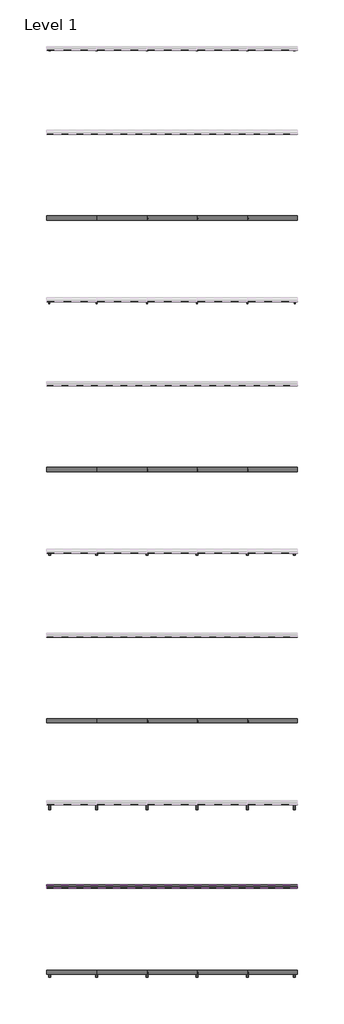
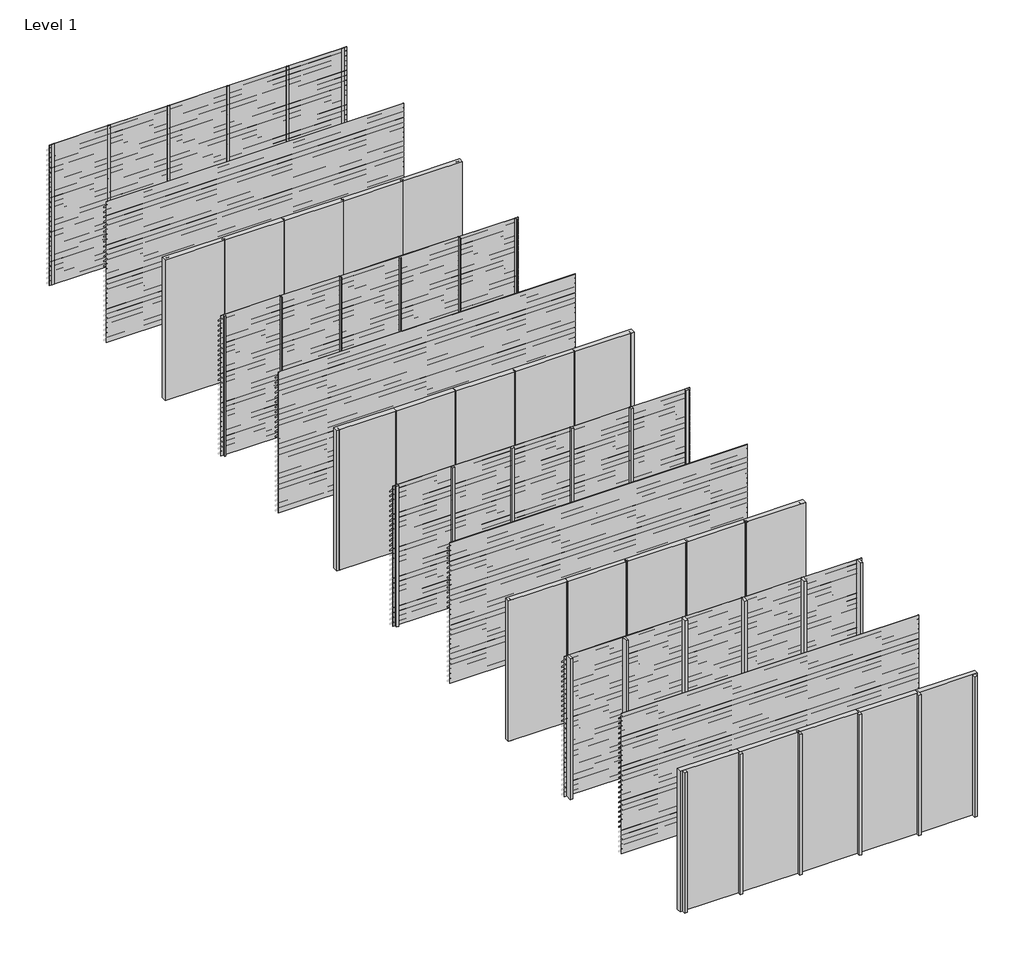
# One storey, part 1 of 8: 48 members, 44 plates, 23 proxies.
"""IFC4 building model written with IfcOpenShell, lengths in millimetres."""

from ifc_helpers import new_model, si_unit, frame, origin, origin_with_axes, place, context, project, spatial, polyline, outline, extrude, transform, mapped, element, save
from components import rectangular_mullion_bbbcbd30, rectangular_mullion_f8d4a220, rectangular_mullion_81aaf6fe, rectangular_mullion_6e08dc26, rectangular_mullion_75c52e10, rectangular_mullion_40295cf1, rectangular_mullion_7f158cb3, rectangular_mullion_66519e13, rectangular_mullion_5829b51c, rectangular_mullion_3b5b8a15, rectangular_mullion_81543344, rectangular_mullion_041a21c4, empty_system_panel_empty_50a928b3, empty_system_panel_empty_6b1ffbf5

model = new_model("IFC4")

# Units and contexts
model_context = context("Model", 3, world=origin())
ifc_project = project(units=[si_unit("LENGTHUNIT", "METRE", prefix="MILLI")], contexts=[model_context])

# Site, building, storey
site = spatial("IfcSite", under=ifc_project)
building = spatial("IfcBuilding", under=site)
storey = spatial("IfcBuildingStorey", under=building, Name="Level 1", Elevation=0.0)

# Proxies
placement = place(None, origin())
element("IfcBuildingElementProxy", 1, Name="Wall Sweeps", at=placement, inside=storey, context=model_context, shape_type="SweptSolid", body=[
    extrude(outline(polyline([(-19995.0, 2940.0), (-19995.0, 2927.0), (-19907.0, 2839.0), (-19907.0, 2818.0), (-19997.0, 2908.0), (-19997.0, 2940.0), (-19995.0, 2940.0)])), frame((0.0, 0.0, 0.0), z_axis=(1.0, 0.0, 0.0), x_axis=(0.0, 1.0, 0.0)), (0.0, 0.0, 1.0), 6000.0),
])
element("IfcBuildingElementProxy", 2, Name="Wall Sweeps", at=placement, inside=storey, context=model_context, shape_type="SweptSolid", body=[
    extrude(outline(polyline([(-19995.0, 2835.0), (-19995.0, 2822.0), (-19907.0, 2734.0), (-19907.0, 2713.0), (-19997.0, 2803.0), (-19997.0, 2835.0), (-19995.0, 2835.0)])), frame((0.0, 0.0, 0.0), z_axis=(1.0, 0.0, 0.0), x_axis=(0.0, 1.0, 0.0)), (0.0, 0.0, 1.0), 6000.0),
])
element("IfcBuildingElementProxy", 3, Name="Wall Sweeps", at=placement, inside=storey, context=model_context, shape_type="SweptSolid", body=[
    extrude(outline(polyline([(-19995.0, 2730.0), (-19995.0, 2717.0), (-19907.0, 2629.0), (-19907.0, 2608.0), (-19997.0, 2698.0), (-19997.0, 2730.0), (-19995.0, 2730.0)])), frame((0.0, 0.0, 0.0), z_axis=(1.0, 0.0, 0.0), x_axis=(0.0, 1.0, 0.0)), (0.0, 0.0, 1.0), 6000.0),
])
element("IfcBuildingElementProxy", 4, Name="Wall Sweeps", at=placement, inside=storey, context=model_context, shape_type="SweptSolid", body=[
    extrude(outline(polyline([(-19995.0, 2625.0), (-19995.0, 2612.0), (-19907.0, 2524.0), (-19907.0, 2503.0), (-19997.0, 2593.0), (-19997.0, 2625.0), (-19995.0, 2625.0)])), frame((0.0, 0.0, 0.0), z_axis=(1.0, 0.0, 0.0), x_axis=(0.0, 1.0, 0.0)), (0.0, 0.0, 1.0), 6000.0),
])
element("IfcBuildingElementProxy", 5, Name="Wall Sweeps", at=placement, inside=storey, context=model_context, shape_type="SweptSolid", body=[
    extrude(outline(polyline([(-19995.0, 2520.0), (-19995.0, 2507.0), (-19907.0, 2419.0), (-19907.0, 2398.0), (-19997.0, 2488.0), (-19997.0, 2520.0), (-19995.0, 2520.0)])), frame((0.0, 0.0, 0.0), z_axis=(1.0, 0.0, 0.0), x_axis=(0.0, 1.0, 0.0)), (0.0, 0.0, 1.0), 6000.0),
])
element("IfcBuildingElementProxy", 6, Name="Wall Sweeps", at=placement, inside=storey, context=model_context, shape_type="SweptSolid", body=[
    extrude(outline(polyline([(-19995.0, 2415.0), (-19995.0, 2402.0), (-19907.0, 2314.0), (-19907.0, 2293.0), (-19997.0, 2383.0), (-19997.0, 2415.0), (-19995.0, 2415.0)])), frame((0.0, 0.0, 0.0), z_axis=(1.0, 0.0, 0.0), x_axis=(0.0, 1.0, 0.0)), (0.0, 0.0, 1.0), 6000.0),
])
element("IfcBuildingElementProxy", 7, Name="Wall Sweeps", at=placement, inside=storey, context=model_context, shape_type="SweptSolid", body=[
    extrude(outline(polyline([(-19995.0, 2310.0), (-19995.0, 2297.0), (-19907.0, 2209.0), (-19907.0, 2188.0), (-19997.0, 2278.0), (-19997.0, 2310.0), (-19995.0, 2310.0)])), frame((0.0, 0.0, 0.0), z_axis=(1.0, 0.0, 0.0), x_axis=(0.0, 1.0, 0.0)), (0.0, 0.0, 1.0), 6000.0),
])
element("IfcBuildingElementProxy", 8, Name="Wall Sweeps", at=placement, inside=storey, context=model_context, shape_type="SweptSolid", body=[
    extrude(outline(polyline([(-19995.0, 2205.0), (-19995.0, 2192.0), (-19907.0, 2104.0), (-19907.0, 2083.0), (-19997.0, 2173.0), (-19997.0, 2205.0), (-19995.0, 2205.0)])), frame((0.0, 0.0, 0.0), z_axis=(1.0, 0.0, 0.0), x_axis=(0.0, 1.0, 0.0)), (0.0, 0.0, 1.0), 6000.0),
])
element("IfcBuildingElementProxy", 9, Name="Wall Sweeps", at=placement, inside=storey, context=model_context, shape_type="SweptSolid", body=[
    extrude(outline(polyline([(-19995.0, 2100.0), (-19995.0, 2087.0), (-19907.0, 1999.0), (-19907.0, 1978.0), (-19997.0, 2068.0), (-19997.0, 2100.0), (-19995.0, 2100.0)])), frame((0.0, 0.0, 0.0), z_axis=(1.0, 0.0, 0.0), x_axis=(0.0, 1.0, 0.0)), (0.0, 0.0, 1.0), 6000.0),
])
element("IfcBuildingElementProxy", 10, Name="Wall Sweeps", at=placement, inside=storey, context=model_context, shape_type="SweptSolid", body=[
    extrude(outline(polyline([(-19995.0, 1995.0), (-19995.0, 1982.0), (-19907.0, 1894.0), (-19907.0, 1873.0), (-19997.0, 1963.0), (-19997.0, 1995.0), (-19995.0, 1995.0)])), frame((0.0, 0.0, 0.0), z_axis=(1.0, 0.0, 0.0), x_axis=(0.0, 1.0, 0.0)), (0.0, 0.0, 1.0), 6000.0),
])
element("IfcBuildingElementProxy", 11, Name="Wall Sweeps", at=placement, inside=storey, context=model_context, shape_type="SweptSolid", body=[
    extrude(outline(polyline([(-19995.0, 1890.0), (-19995.0, 1877.0), (-19907.0, 1789.0), (-19907.0, 1768.0), (-19997.0, 1858.0), (-19997.0, 1890.0), (-19995.0, 1890.0)])), frame((0.0, 0.0, 0.0), z_axis=(1.0, 0.0, 0.0), x_axis=(0.0, 1.0, 0.0)), (0.0, 0.0, 1.0), 6000.0),
])
element("IfcBuildingElementProxy", 12, Name="Wall Sweeps", at=placement, inside=storey, context=model_context, shape_type="SweptSolid", body=[
    extrude(outline(polyline([(-19995.0, 1785.0), (-19995.0, 1772.0), (-19907.0, 1684.0), (-19907.0, 1663.0), (-19997.0, 1753.0), (-19997.0, 1785.0), (-19995.0, 1785.0)])), frame((0.0, 0.0, 0.0), z_axis=(1.0, 0.0, 0.0), x_axis=(0.0, 1.0, 0.0)), (0.0, 0.0, 1.0), 6000.0),
])
element("IfcBuildingElementProxy", 13, Name="Wall Sweeps", at=placement, inside=storey, context=model_context, shape_type="SweptSolid", body=[
    extrude(outline(polyline([(-19995.0, 1680.0), (-19995.0, 1667.0), (-19907.0, 1579.0), (-19907.0, 1558.0), (-19997.0, 1648.0), (-19997.0, 1680.0), (-19995.0, 1680.0)])), frame((0.0, 0.0, 0.0), z_axis=(1.0, 0.0, 0.0), x_axis=(0.0, 1.0, 0.0)), (0.0, 0.0, 1.0), 6000.0),
])
element("IfcBuildingElementProxy", 14, Name="Wall Sweeps", at=placement, inside=storey, context=model_context, shape_type="SweptSolid", body=[
    extrude(outline(polyline([(-19995.0, 1575.0), (-19995.0, 1562.0), (-19907.0, 1474.0), (-19907.0, 1453.0), (-19997.0, 1543.0), (-19997.0, 1575.0), (-19995.0, 1575.0)])), frame((0.0, 0.0, 0.0), z_axis=(1.0, 0.0, 0.0), x_axis=(0.0, 1.0, 0.0)), (0.0, 0.0, 1.0), 6000.0),
])
element("IfcBuildingElementProxy", 15, Name="Wall Sweeps", at=placement, inside=storey, context=model_context, shape_type="SweptSolid", body=[
    extrude(outline(polyline([(-19995.0, 1470.0), (-19995.0, 1457.0), (-19907.0, 1369.0), (-19907.0, 1348.0), (-19997.0, 1438.0), (-19997.0, 1470.0), (-19995.0, 1470.0)])), frame((0.0, 0.0, 0.0), z_axis=(1.0, 0.0, 0.0), x_axis=(0.0, 1.0, 0.0)), (0.0, 0.0, 1.0), 6000.0),
])
element("IfcBuildingElementProxy", 16, Name="Wall Sweeps", at=placement, inside=storey, context=model_context, shape_type="SweptSolid", body=[
    extrude(outline(polyline([(-19995.0, 1365.0), (-19995.0, 1352.0), (-19907.0, 1264.0), (-19907.0, 1243.0), (-19997.0, 1333.0), (-19997.0, 1365.0), (-19995.0, 1365.0)])), frame((0.0, 0.0, 0.0), z_axis=(1.0, 0.0, 0.0), x_axis=(0.0, 1.0, 0.0)), (0.0, 0.0, 1.0), 6000.0),
])
element("IfcBuildingElementProxy", 17, Name="Wall Sweeps", at=placement, inside=storey, context=model_context, shape_type="SweptSolid", body=[
    extrude(outline(polyline([(-19995.0, 1260.0), (-19995.0, 1247.0), (-19907.0, 1159.0), (-19907.0, 1138.0), (-19997.0, 1228.0), (-19997.0, 1260.0), (-19995.0, 1260.0)])), frame((0.0, 0.0, 0.0), z_axis=(1.0, 0.0, 0.0), x_axis=(0.0, 1.0, 0.0)), (0.0, 0.0, 1.0), 6000.0),
])
element("IfcBuildingElementProxy", 18, Name="Wall Sweeps", at=placement, inside=storey, context=model_context, shape_type="SweptSolid", body=[
    extrude(outline(polyline([(-19995.0, 1155.0), (-19995.0, 1142.0), (-19907.0, 1054.0), (-19907.0, 1033.0), (-19997.0, 1123.0), (-19997.0, 1155.0), (-19995.0, 1155.0)])), frame((0.0, 0.0, 0.0), z_axis=(1.0, 0.0, 0.0), x_axis=(0.0, 1.0, 0.0)), (0.0, 0.0, 1.0), 6000.0),
])
element("IfcBuildingElementProxy", 19, Name="Wall Sweeps", at=placement, inside=storey, context=model_context, shape_type="SweptSolid", body=[
    extrude(outline(polyline([(-19995.0, 1050.0), (-19995.0, 1037.0), (-19907.0, 949.0), (-19907.0, 928.0), (-19997.0, 1018.0), (-19997.0, 1050.0), (-19995.0, 1050.0)])), frame((0.0, 0.0, 0.0), z_axis=(1.0, 0.0, 0.0), x_axis=(0.0, 1.0, 0.0)), (0.0, 0.0, 1.0), 6000.0),
])
element("IfcBuildingElementProxy", 20, Name="Wall Sweeps", at=placement, inside=storey, context=model_context, shape_type="SweptSolid", body=[
    extrude(outline(polyline([(-19995.0, 945.0), (-19995.0, 932.0), (-19907.0, 844.0), (-19907.0, 823.0), (-19997.0, 913.0), (-19997.0, 945.0), (-19995.0, 945.0)])), frame((0.0, 0.0, 0.0), z_axis=(1.0, 0.0, 0.0), x_axis=(0.0, 1.0, 0.0)), (0.0, 0.0, 1.0), 6000.0),
])
element("IfcBuildingElementProxy", 21, Name="Wall Sweeps", at=placement, inside=storey, context=model_context, shape_type="SweptSolid", body=[
    extrude(outline(polyline([(-19995.0, 840.0), (-19995.0, 827.0), (-19907.0, 739.0), (-19907.0, 718.0), (-19997.0, 808.0), (-19997.0, 840.0), (-19995.0, 840.0)])), frame((0.0, 0.0, 0.0), z_axis=(1.0, 0.0, 0.0), x_axis=(0.0, 1.0, 0.0)), (0.0, 0.0, 1.0), 6000.0),
])
element("IfcBuildingElementProxy", 22, Name="Wall Sweeps", at=placement, inside=storey, context=model_context, shape_type="SweptSolid", body=[
    extrude(outline(polyline([(-19995.0, 735.0), (-19995.0, 722.0), (-19907.0, 634.0), (-19907.0, 613.0), (-19997.0, 703.0), (-19997.0, 735.0), (-19995.0, 735.0)])), frame((0.0, 0.0, 0.0), z_axis=(1.0, 0.0, 0.0), x_axis=(0.0, 1.0, 0.0)), (0.0, 0.0, 1.0), 6000.0),
])
element("IfcBuildingElementProxy", 23, Name="Wall Sweeps", at=placement, inside=storey, context=model_context, shape_type="SweptSolid", body=[
    extrude(outline(polyline([(-19995.0, 630.0), (-19995.0, 617.0), (-19907.0, 529.0), (-19907.0, 508.0), (-19997.0, 598.0), (-19997.0, 630.0), (-19995.0, 630.0)])), frame((0.0, 0.0, 0.0), z_axis=(1.0, 0.0, 0.0), x_axis=(0.0, 1.0, 0.0)), (0.0, 0.0, 1.0), 6000.0),
])

# Members
rectangular_mullion_shape = rectangular_mullion_bbbcbd30(model_context)
element("IfcMember", 24, ObjectType="Rectangular Mullion : RSen_21_CWM_support profile - 50x12 - left_gen_duco projects", at=placement, inside=storey, context=model_context, shape_type="MappedRepresentation", body=[
    mapped(rectangular_mullion_shape, transform((0.0, 0.0, 0.0), x_axis=(-1.0, 0.0, 0.0), y_axis=(0.0, 1.0, 0.0), z_axis=(0.0, 0.0, -1.0))),
])
element("IfcMember", 25, ObjectType="Rectangular Mullion : RSen_21_CWM_support profile - 50x12 - left_gen_duco projects", at=placement, inside=storey, context=model_context, shape_type="MappedRepresentation", body=[
    mapped(rectangular_mullion_shape, transform((0.0, -4000.0, 0.0), x_axis=(-1.0, 0.0, 0.0), y_axis=(0.0, 1.0, 0.0), z_axis=(0.0, 0.0, -1.0))),
])
rectangular_mullion_2_shape = rectangular_mullion_f8d4a220(model_context)
element("IfcMember", 26, ObjectType="Rectangular Mullion : RSen_21_CWM_support profile - 50x12 - right_gen_duco projects", at=placement, inside=storey, context=model_context, shape_type="MappedRepresentation", body=[
    mapped(rectangular_mullion_2_shape, transform((6000.0, 0.0, 3000.0), x_axis=(1.0, 0.0, 0.0), y_axis=(0.0, 1.0, 0.0), z_axis=(0.0, 0.0, 1.0))),
])
element("IfcMember", 27, ObjectType="Rectangular Mullion : RSen_21_CWM_support profile - 50x12 - right_gen_duco projects", at=placement, inside=storey, context=model_context, shape_type="MappedRepresentation", body=[
    mapped(rectangular_mullion_2_shape, transform((6000.0, -4000.0, 3000.0), x_axis=(1.0, 0.0, 0.0), y_axis=(0.0, 1.0, 0.0), z_axis=(0.0, 0.0, 1.0))),
])
rectangular_mullion_3_shape = rectangular_mullion_81aaf6fe(model_context)
element("IfcMember", 28, ObjectType="Rectangular Mullion : RSen_21_CWM_support profile - 21x50 Multi - left_gen_duco projects", at=placement, inside=storey, context=model_context, shape_type="MappedRepresentation", body=[
    mapped(rectangular_mullion_3_shape, transform((0.0, -6000.0, 0.0), x_axis=(-1.0, 0.0, 0.0), y_axis=(0.0, 1.0, 0.0), z_axis=(0.0, 0.0, -1.0))),
])
element("IfcMember", 29, ObjectType="Rectangular Mullion : RSen_21_CWM_support profile - 21x50 Multi - left_gen_duco projects", at=placement, inside=storey, context=model_context, shape_type="MappedRepresentation", body=[
    mapped(rectangular_mullion_3_shape, transform((0.0, -10000.0, 0.0), x_axis=(-1.0, 0.0, 0.0), y_axis=(0.0, 1.0, 0.0), z_axis=(0.0, 0.0, -1.0))),
])
rectangular_mullion_4_shape = rectangular_mullion_6e08dc26(model_context)
element("IfcMember", 30, ObjectType="Rectangular Mullion : RSen_21_CWM_support profile - 21x50 Multi - right_gen_duco projects", at=placement, inside=storey, context=model_context, shape_type="MappedRepresentation", body=[
    mapped(rectangular_mullion_4_shape, transform((6000.0, -6000.0, 3000.0), x_axis=(1.0, 0.0, 0.0), y_axis=(0.0, 1.0, 0.0), z_axis=(0.0, 0.0, 1.0))),
])
element("IfcMember", 31, ObjectType="Rectangular Mullion : RSen_21_CWM_support profile - 21x50 Multi - right_gen_duco projects", at=placement, inside=storey, context=model_context, shape_type="MappedRepresentation", body=[
    mapped(rectangular_mullion_4_shape, transform((6000.0, -10000.0, 3000.0), x_axis=(1.0, 0.0, 0.0), y_axis=(0.0, 1.0, 0.0), z_axis=(0.0, 0.0, 1.0))),
])
rectangular_mullion_5_shape = rectangular_mullion_75c52e10(model_context)
element("IfcMember", 32, ObjectType="Rectangular Mullion : RSen_21_CWM_support profile - 50x50 - left_gen_duco projects", at=placement, inside=storey, context=model_context, shape_type="MappedRepresentation", body=[
    mapped(rectangular_mullion_5_shape, transform((0.0, -12000.0, 0.0), x_axis=(-1.0, 0.0, 0.0), y_axis=(0.0, 1.0, 0.0), z_axis=(0.0, 0.0, -1.0))),
])
element("IfcMember", 33, ObjectType="Rectangular Mullion : RSen_21_CWM_support profile - 50x50 - left_gen_duco projects", at=placement, inside=storey, context=model_context, shape_type="MappedRepresentation", body=[
    mapped(rectangular_mullion_5_shape, transform((0.0, -16000.0, 0.0), x_axis=(-1.0, 0.0, 0.0), y_axis=(0.0, 1.0, 0.0), z_axis=(0.0, 0.0, -1.0))),
])
rectangular_mullion_6_shape = rectangular_mullion_40295cf1(model_context)
element("IfcMember", 34, ObjectType="Rectangular Mullion : RSen_21_CWM_support profile - 50x50 - right_gen_duco projects", at=placement, inside=storey, context=model_context, shape_type="MappedRepresentation", body=[
    mapped(rectangular_mullion_6_shape, transform((6000.0, -12000.0, 3000.0), x_axis=(1.0, 0.0, 0.0), y_axis=(0.0, 1.0, 0.0), z_axis=(0.0, 0.0, 1.0))),
])
element("IfcMember", 35, ObjectType="Rectangular Mullion : RSen_21_CWM_support profile - 50x50 - right_gen_duco projects", at=placement, inside=storey, context=model_context, shape_type="MappedRepresentation", body=[
    mapped(rectangular_mullion_6_shape, transform((6000.0, -16000.0, 3000.0), x_axis=(1.0, 0.0, 0.0), y_axis=(0.0, 1.0, 0.0), z_axis=(0.0, 0.0, 1.0))),
])
rectangular_mullion_7_shape = rectangular_mullion_7f158cb3(model_context)
element("IfcMember", 36, ObjectType="Rectangular Mullion : RSen_21_CWM_support profile - 50x12_gen_duco projects", at=placement, inside=storey, context=model_context, shape_type="MappedRepresentation", body=[
    mapped(rectangular_mullion_7_shape, transform((4800.0, 0.0, 0.0), x_axis=(-1.0, 0.0, 0.0), y_axis=(0.0, 1.0, 0.0), z_axis=(0.0, 0.0, -1.0))),
])
element("IfcMember", 37, ObjectType="Rectangular Mullion : RSen_21_CWM_support profile - 50x12_gen_duco projects", at=placement, inside=storey, context=model_context, shape_type="MappedRepresentation", body=[
    mapped(rectangular_mullion_7_shape, transform((3600.0, 0.0, 0.0), x_axis=(-1.0, 0.0, 0.0), y_axis=(0.0, 1.0, 0.0), z_axis=(0.0, 0.0, -1.0))),
])
element("IfcMember", 38, ObjectType="Rectangular Mullion : RSen_21_CWM_support profile - 50x12_gen_duco projects", at=placement, inside=storey, context=model_context, shape_type="MappedRepresentation", body=[
    mapped(rectangular_mullion_7_shape, transform((2400.0, 0.0, 0.0), x_axis=(-1.0, 0.0, 0.0), y_axis=(0.0, 1.0, 0.0), z_axis=(0.0, 0.0, -1.0))),
])
element("IfcMember", 39, ObjectType="Rectangular Mullion : RSen_21_CWM_support profile - 50x12_gen_duco projects", at=placement, inside=storey, context=model_context, shape_type="MappedRepresentation", body=[
    mapped(rectangular_mullion_7_shape, transform((1200.0, 0.0, 0.0), x_axis=(-1.0, 0.0, 0.0), y_axis=(0.0, 1.0, 0.0), z_axis=(0.0, 0.0, -1.0))),
])
element("IfcMember", 40, ObjectType="Rectangular Mullion : RSen_21_CWM_support profile - 50x12_gen_duco projects", at=placement, inside=storey, context=model_context, shape_type="MappedRepresentation", body=[
    mapped(rectangular_mullion_7_shape, transform((4800.0, -4000.0, 0.0), x_axis=(-1.0, 0.0, 0.0), y_axis=(0.0, 1.0, 0.0), z_axis=(0.0, 0.0, -1.0))),
])
element("IfcMember", 41, ObjectType="Rectangular Mullion : RSen_21_CWM_support profile - 50x12_gen_duco projects", at=placement, inside=storey, context=model_context, shape_type="MappedRepresentation", body=[
    mapped(rectangular_mullion_7_shape, transform((3600.0, -4000.0, 0.0), x_axis=(-1.0, 0.0, 0.0), y_axis=(0.0, 1.0, 0.0), z_axis=(0.0, 0.0, -1.0))),
])
element("IfcMember", 42, ObjectType="Rectangular Mullion : RSen_21_CWM_support profile - 50x12_gen_duco projects", at=placement, inside=storey, context=model_context, shape_type="MappedRepresentation", body=[
    mapped(rectangular_mullion_7_shape, transform((2400.0, -4000.0, 0.0), x_axis=(-1.0, 0.0, 0.0), y_axis=(0.0, 1.0, 0.0), z_axis=(0.0, 0.0, -1.0))),
])
element("IfcMember", 43, ObjectType="Rectangular Mullion : RSen_21_CWM_support profile - 50x12_gen_duco projects", at=placement, inside=storey, context=model_context, shape_type="MappedRepresentation", body=[
    mapped(rectangular_mullion_7_shape, transform((1200.0, -4000.0, 0.0), x_axis=(-1.0, 0.0, 0.0), y_axis=(0.0, 1.0, 0.0), z_axis=(0.0, 0.0, -1.0))),
])
rectangular_mullion_8_shape = rectangular_mullion_66519e13(model_context)
element("IfcMember", 44, ObjectType="Rectangular Mullion : RSen_21_CWM_support profile - 21x50 Multi_gen_duco projects", at=placement, inside=storey, context=model_context, shape_type="MappedRepresentation", body=[
    mapped(rectangular_mullion_8_shape, transform((4800.0, -6000.0, 0.0), x_axis=(-1.0, 0.0, 0.0), y_axis=(0.0, 1.0, 0.0), z_axis=(0.0, 0.0, -1.0))),
])
element("IfcMember", 45, ObjectType="Rectangular Mullion : RSen_21_CWM_support profile - 21x50 Multi_gen_duco projects", at=placement, inside=storey, context=model_context, shape_type="MappedRepresentation", body=[
    mapped(rectangular_mullion_8_shape, transform((3600.0, -6000.0, 0.0), x_axis=(-1.0, 0.0, 0.0), y_axis=(0.0, 1.0, 0.0), z_axis=(0.0, 0.0, -1.0))),
])
element("IfcMember", 46, ObjectType="Rectangular Mullion : RSen_21_CWM_support profile - 21x50 Multi_gen_duco projects", at=placement, inside=storey, context=model_context, shape_type="MappedRepresentation", body=[
    mapped(rectangular_mullion_8_shape, transform((2400.0, -6000.0, 0.0), x_axis=(-1.0, 0.0, 0.0), y_axis=(0.0, 1.0, 0.0), z_axis=(0.0, 0.0, -1.0))),
])
element("IfcMember", 47, ObjectType="Rectangular Mullion : RSen_21_CWM_support profile - 21x50 Multi_gen_duco projects", at=placement, inside=storey, context=model_context, shape_type="MappedRepresentation", body=[
    mapped(rectangular_mullion_8_shape, transform((1200.0, -6000.0, 0.0), x_axis=(-1.0, 0.0, 0.0), y_axis=(0.0, 1.0, 0.0), z_axis=(0.0, 0.0, -1.0))),
])
element("IfcMember", 48, ObjectType="Rectangular Mullion : RSen_21_CWM_support profile - 21x50 Multi_gen_duco projects", at=placement, inside=storey, context=model_context, shape_type="MappedRepresentation", body=[
    mapped(rectangular_mullion_8_shape, transform((4800.0, -10000.0, 0.0), x_axis=(-1.0, 0.0, 0.0), y_axis=(0.0, 1.0, 0.0), z_axis=(0.0, 0.0, -1.0))),
])
element("IfcMember", 49, ObjectType="Rectangular Mullion : RSen_21_CWM_support profile - 21x50 Multi_gen_duco projects", at=placement, inside=storey, context=model_context, shape_type="MappedRepresentation", body=[
    mapped(rectangular_mullion_8_shape, transform((3600.0, -10000.0, 0.0), x_axis=(-1.0, 0.0, 0.0), y_axis=(0.0, 1.0, 0.0), z_axis=(0.0, 0.0, -1.0))),
])
element("IfcMember", 50, ObjectType="Rectangular Mullion : RSen_21_CWM_support profile - 21x50 Multi_gen_duco projects", at=placement, inside=storey, context=model_context, shape_type="MappedRepresentation", body=[
    mapped(rectangular_mullion_8_shape, transform((2400.0, -10000.0, 0.0), x_axis=(-1.0, 0.0, 0.0), y_axis=(0.0, 1.0, 0.0), z_axis=(0.0, 0.0, -1.0))),
])
element("IfcMember", 51, ObjectType="Rectangular Mullion : RSen_21_CWM_support profile - 21x50 Multi_gen_duco projects", at=placement, inside=storey, context=model_context, shape_type="MappedRepresentation", body=[
    mapped(rectangular_mullion_8_shape, transform((1200.0, -10000.0, 0.0), x_axis=(-1.0, 0.0, 0.0), y_axis=(0.0, 1.0, 0.0), z_axis=(0.0, 0.0, -1.0))),
])
rectangular_mullion_9_shape = rectangular_mullion_5829b51c(model_context)
element("IfcMember", 52, ObjectType="Rectangular Mullion : RSen_21_CWM_support profile - 50x50_gen_duco projects", at=placement, inside=storey, context=model_context, shape_type="MappedRepresentation", body=[
    mapped(rectangular_mullion_9_shape, transform((4800.0, -12000.0, 0.0), x_axis=(-1.0, 0.0, 0.0), y_axis=(0.0, 1.0, 0.0), z_axis=(0.0, 0.0, -1.0))),
])
element("IfcMember", 53, ObjectType="Rectangular Mullion : RSen_21_CWM_support profile - 50x50_gen_duco projects", at=placement, inside=storey, context=model_context, shape_type="MappedRepresentation", body=[
    mapped(rectangular_mullion_9_shape, transform((3600.0, -12000.0, 0.0), x_axis=(-1.0, 0.0, 0.0), y_axis=(0.0, 1.0, 0.0), z_axis=(0.0, 0.0, -1.0))),
])
element("IfcMember", 54, ObjectType="Rectangular Mullion : RSen_21_CWM_support profile - 50x50_gen_duco projects", at=placement, inside=storey, context=model_context, shape_type="MappedRepresentation", body=[
    mapped(rectangular_mullion_9_shape, transform((2400.0, -12000.0, 0.0), x_axis=(-1.0, 0.0, 0.0), y_axis=(0.0, 1.0, 0.0), z_axis=(0.0, 0.0, -1.0))),
])
element("IfcMember", 55, ObjectType="Rectangular Mullion : RSen_21_CWM_support profile - 50x50_gen_duco projects", at=placement, inside=storey, context=model_context, shape_type="MappedRepresentation", body=[
    mapped(rectangular_mullion_9_shape, transform((1200.0, -12000.0, 0.0), x_axis=(-1.0, 0.0, 0.0), y_axis=(0.0, 1.0, 0.0), z_axis=(0.0, 0.0, -1.0))),
])
element("IfcMember", 56, ObjectType="Rectangular Mullion : RSen_21_CWM_support profile - 50x50_gen_duco projects", at=placement, inside=storey, context=model_context, shape_type="MappedRepresentation", body=[
    mapped(rectangular_mullion_9_shape, transform((4800.0, -16000.0, 0.0), x_axis=(-1.0, 0.0, 0.0), y_axis=(0.0, 1.0, 0.0), z_axis=(0.0, 0.0, -1.0))),
])
element("IfcMember", 57, ObjectType="Rectangular Mullion : RSen_21_CWM_support profile - 50x50_gen_duco projects", at=placement, inside=storey, context=model_context, shape_type="MappedRepresentation", body=[
    mapped(rectangular_mullion_9_shape, transform((3600.0, -16000.0, 0.0), x_axis=(-1.0, 0.0, 0.0), y_axis=(0.0, 1.0, 0.0), z_axis=(0.0, 0.0, -1.0))),
])
element("IfcMember", 58, ObjectType="Rectangular Mullion : RSen_21_CWM_support profile - 50x50_gen_duco projects", at=placement, inside=storey, context=model_context, shape_type="MappedRepresentation", body=[
    mapped(rectangular_mullion_9_shape, transform((2400.0, -16000.0, 0.0), x_axis=(-1.0, 0.0, 0.0), y_axis=(0.0, 1.0, 0.0), z_axis=(0.0, 0.0, -1.0))),
])
element("IfcMember", 59, ObjectType="Rectangular Mullion : RSen_21_CWM_support profile - 50x50_gen_duco projects", at=placement, inside=storey, context=model_context, shape_type="MappedRepresentation", body=[
    mapped(rectangular_mullion_9_shape, transform((1200.0, -16000.0, 0.0), x_axis=(-1.0, 0.0, 0.0), y_axis=(0.0, 1.0, 0.0), z_axis=(0.0, 0.0, -1.0))),
])
rectangular_mullion_10_shape = rectangular_mullion_3b5b8a15(model_context)
element("IfcMember", 60, ObjectType="Rectangular Mullion : RSen_21_CWM_support profile - 50x125_gen_duco projects", at=placement, inside=storey, context=model_context, shape_type="MappedRepresentation", body=[
    mapped(rectangular_mullion_10_shape, transform((1200.0000002, -18000.0, 0.0), x_axis=(1.0, 0.0, 0.0), y_axis=(0.0, -1.0, 0.0), z_axis=(0.0, 0.0, -1.0))),
])
element("IfcMember", 61, ObjectType="Rectangular Mullion : RSen_21_CWM_support profile - 50x125_gen_duco projects", at=placement, inside=storey, context=model_context, shape_type="MappedRepresentation", body=[
    mapped(rectangular_mullion_10_shape, transform((2400.0000001, -18000.0, 0.0), x_axis=(1.0, 0.0, 0.0), y_axis=(0.0, -1.0, 0.0), z_axis=(0.0, 0.0, -1.0))),
])
element("IfcMember", 62, ObjectType="Rectangular Mullion : RSen_21_CWM_support profile - 50x125_gen_duco projects", at=placement, inside=storey, context=model_context, shape_type="MappedRepresentation", body=[
    mapped(rectangular_mullion_10_shape, transform((3599.9999999, -18000.0, 0.0), x_axis=(1.0, 0.0, 0.0), y_axis=(0.0, -1.0, 0.0), z_axis=(0.0, 0.0, -1.0))),
])
element("IfcMember", 63, ObjectType="Rectangular Mullion : RSen_21_CWM_support profile - 50x125_gen_duco projects", at=placement, inside=storey, context=model_context, shape_type="MappedRepresentation", body=[
    mapped(rectangular_mullion_10_shape, transform((4799.9999998, -18000.0, 0.0), x_axis=(1.0, 0.0, 0.0), y_axis=(0.0, -1.0, 0.0), z_axis=(0.0, 0.0, -1.0))),
])
element("IfcMember", 64, ObjectType="Rectangular Mullion : RSen_21_CWM_support profile - 50x125_gen_duco projects", at=placement, inside=storey, context=model_context, shape_type="MappedRepresentation", body=[
    mapped(rectangular_mullion_10_shape, transform((1200.0000002, -22000.0, 0.0), x_axis=(1.0, 0.0, 0.0), y_axis=(0.0, -1.0, 0.0), z_axis=(0.0, 0.0, -1.0))),
])
element("IfcMember", 65, ObjectType="Rectangular Mullion : RSen_21_CWM_support profile - 50x125_gen_duco projects", at=placement, inside=storey, context=model_context, shape_type="MappedRepresentation", body=[
    mapped(rectangular_mullion_10_shape, transform((2400.0000001, -22000.0, 0.0), x_axis=(1.0, 0.0, 0.0), y_axis=(0.0, -1.0, 0.0), z_axis=(0.0, 0.0, -1.0))),
])
element("IfcMember", 66, ObjectType="Rectangular Mullion : RSen_21_CWM_support profile - 50x125_gen_duco projects", at=placement, inside=storey, context=model_context, shape_type="MappedRepresentation", body=[
    mapped(rectangular_mullion_10_shape, transform((3599.9999999, -22000.0, 0.0), x_axis=(1.0, 0.0, 0.0), y_axis=(0.0, -1.0, 0.0), z_axis=(0.0, 0.0, -1.0))),
])
element("IfcMember", 67, ObjectType="Rectangular Mullion : RSen_21_CWM_support profile - 50x125_gen_duco projects", at=placement, inside=storey, context=model_context, shape_type="MappedRepresentation", body=[
    mapped(rectangular_mullion_10_shape, transform((4799.9999998, -22000.0, 0.0), x_axis=(1.0, 0.0, 0.0), y_axis=(0.0, -1.0, 0.0), z_axis=(0.0, 0.0, -1.0))),
])
rectangular_mullion_11_shape = rectangular_mullion_81543344(model_context)
element("IfcMember", 68, ObjectType="Rectangular Mullion : RSen_21_CWM_support profile - 50x125 - left_gen_duco projects", at=placement, inside=storey, context=model_context, shape_type="MappedRepresentation", body=[
    mapped(rectangular_mullion_11_shape, transform((6000.0, -18000.0, 0.0), x_axis=(1.0, 0.0, 0.0), y_axis=(0.0, -1.0, 0.0), z_axis=(0.0, 0.0, -1.0))),
])
element("IfcMember", 69, ObjectType="Rectangular Mullion : RSen_21_CWM_support profile - 50x125 - left_gen_duco projects", at=placement, inside=storey, context=model_context, shape_type="MappedRepresentation", body=[
    mapped(rectangular_mullion_11_shape, transform((6000.0, -22000.0, 0.0), x_axis=(1.0, 0.0, 0.0), y_axis=(0.0, -1.0, 0.0), z_axis=(0.0, 0.0, -1.0))),
])
rectangular_mullion_12_shape = rectangular_mullion_041a21c4(model_context)
element("IfcMember", 70, ObjectType="Rectangular Mullion : RSen_21_CWM_support profile - 50x125 - right_gen_duco projects", at=placement, inside=storey, context=model_context, shape_type="MappedRepresentation", body=[
    mapped(rectangular_mullion_12_shape, transform((0.0, -18000.0, 3000.0), x_axis=(-1.0, 0.0, 0.0), y_axis=(0.0, -1.0, 0.0), z_axis=(0.0, 0.0, 1.0))),
])
element("IfcMember", 71, ObjectType="Rectangular Mullion : RSen_21_CWM_support profile - 50x125 - right_gen_duco projects", at=placement, inside=storey, context=model_context, shape_type="MappedRepresentation", body=[
    mapped(rectangular_mullion_12_shape, transform((0.0, -22000.0, 3000.0), x_axis=(-1.0, 0.0, 0.0), y_axis=(0.0, -1.0, 0.0), z_axis=(0.0, 0.0, 1.0))),
])

# Plates
element("IfcPlate", 72, ObjectType="RSen_21_WA_louvre blade classic W 90S_gen_duco projects", at=placement, inside=storey, context=model_context, shape_type="SweptSolid", body=[
    extrude(outline(polyline([(0.0, 1.0), (1200.0, 1.0), (1200.0, -1.0), (0.0, -1.0), (0.0, 1.0)])), origin_with_axes(), (0.0, 0.0, 1.0), 3000.0),
])
element("IfcPlate", 73, ObjectType="RSen_21_WA_louvre blade classic W 90S_gen_duco projects", at=placement, inside=storey, context=model_context, shape_type="SweptSolid", body=[
    extrude(outline(polyline([(1200.0, 1.0), (2400.0, 1.0), (2400.0, -1.0), (1200.0, -1.0), (1200.0, 1.0)])), origin_with_axes(), (0.0, 0.0, 1.0), 3000.0),
])
element("IfcPlate", 74, ObjectType="RSen_21_WA_louvre blade classic W 90S_gen_duco projects", at=placement, inside=storey, context=model_context, shape_type="SweptSolid", body=[
    extrude(outline(polyline([(2400.0, 1.0), (3600.0, 1.0), (3600.0, -1.0), (2400.0, -1.0), (2400.0, 1.0)])), origin_with_axes(), (0.0, 0.0, 1.0), 3000.0),
])
element("IfcPlate", 75, ObjectType="RSen_21_WA_louvre blade classic W 90S_gen_duco projects", at=placement, inside=storey, context=model_context, shape_type="SweptSolid", body=[
    extrude(outline(polyline([(3600.0, 1.0), (4800.0, 1.0), (4800.0, -1.0), (3600.0, -1.0), (3600.0, 1.0)])), origin_with_axes(), (0.0, 0.0, 1.0), 3000.0),
])
element("IfcPlate", 76, ObjectType="RSen_21_WA_louvre blade classic W 90S_gen_duco projects", at=placement, inside=storey, context=model_context, shape_type="SweptSolid", body=[
    extrude(outline(polyline([(4800.0, 1.0), (6000.0, 1.0), (6000.0, -1.0), (4800.0, -1.0), (4800.0, 1.0)])), origin_with_axes(), (0.0, 0.0, 1.0), 3000.0),
])
element("IfcPlate", 77, ObjectType="RSen_21_WA_louvre blade classic W 90S_gen_duco projects", at=placement, inside=storey, context=model_context, shape_type="SweptSolid", body=[
    extrude(outline(polyline([(0.0, -1999.0), (6000.0, -1999.0), (6000.0, -2001.0), (0.0, -2001.0), (0.0, -1999.0)])), origin_with_axes(), (0.0, 0.0, 1.0), 3000.0),
])
element("IfcPlate", 78, ObjectType="RSen_21_WA_louvre blade classic W 90S_gen_duco projects", at=placement, inside=storey, context=model_context, shape_type="SweptSolid", body=[
    extrude(outline(polyline([(0.0, -5999.0), (1200.0, -5999.0), (1200.0, -6001.0), (0.0, -6001.0), (0.0, -5999.0)])), origin_with_axes(), (0.0, 0.0, 1.0), 3000.0),
])
element("IfcPlate", 79, ObjectType="RSen_21_WA_louvre blade classic W 90S_gen_duco projects", at=placement, inside=storey, context=model_context, shape_type="SweptSolid", body=[
    extrude(outline(polyline([(1200.0, -5999.0), (2400.0, -5999.0), (2400.0, -6001.0), (1200.0, -6001.0), (1200.0, -5999.0)])), origin_with_axes(), (0.0, 0.0, 1.0), 3000.0),
])
element("IfcPlate", 80, ObjectType="RSen_21_WA_louvre blade classic W 90S_gen_duco projects", at=placement, inside=storey, context=model_context, shape_type="SweptSolid", body=[
    extrude(outline(polyline([(2400.0, -5999.0), (3600.0, -5999.0), (3600.0, -6001.0), (2400.0, -6001.0), (2400.0, -5999.0)])), origin_with_axes(), (0.0, 0.0, 1.0), 3000.0),
])
element("IfcPlate", 81, ObjectType="RSen_21_WA_louvre blade classic W 90S_gen_duco projects", at=placement, inside=storey, context=model_context, shape_type="SweptSolid", body=[
    extrude(outline(polyline([(3600.0, -5999.0), (4800.0, -5999.0), (4800.0, -6001.0), (3600.0, -6001.0), (3600.0, -5999.0)])), origin_with_axes(), (0.0, 0.0, 1.0), 3000.0),
])
element("IfcPlate", 82, ObjectType="RSen_21_WA_louvre blade classic W 90S_gen_duco projects", at=placement, inside=storey, context=model_context, shape_type="SweptSolid", body=[
    extrude(outline(polyline([(4800.0, -5999.0), (6000.0, -5999.0), (6000.0, -6001.0), (4800.0, -6001.0), (4800.0, -5999.0)])), origin_with_axes(), (0.0, 0.0, 1.0), 3000.0),
])
element("IfcPlate", 83, ObjectType="RSen_21_WA_louvre blade classic W 90S_gen_duco projects", at=placement, inside=storey, context=model_context, shape_type="SweptSolid", body=[
    extrude(outline(polyline([(0.0, -7999.0), (6000.0, -7999.0), (6000.0, -8001.0), (0.0, -8001.0), (0.0, -7999.0)])), origin_with_axes(), (0.0, 0.0, 1.0), 3000.0),
])
element("IfcPlate", 84, ObjectType="RSen_21_WA_louvre blade classic W 90S_gen_duco projects", at=placement, inside=storey, context=model_context, shape_type="SweptSolid", body=[
    extrude(outline(polyline([(0.0, -11999.0), (1200.0, -11999.0), (1200.0, -12001.0), (0.0, -12001.0), (0.0, -11999.0)])), origin_with_axes(), (0.0, 0.0, 1.0), 3000.0),
])
element("IfcPlate", 85, ObjectType="RSen_21_WA_louvre blade classic W 90S_gen_duco projects", at=placement, inside=storey, context=model_context, shape_type="SweptSolid", body=[
    extrude(outline(polyline([(1200.0, -11999.0), (2400.0, -11999.0), (2400.0, -12001.0), (1200.0, -12001.0), (1200.0, -11999.0)])), origin_with_axes(), (0.0, 0.0, 1.0), 3000.0),
])
element("IfcPlate", 86, ObjectType="RSen_21_WA_louvre blade classic W 90S_gen_duco projects", at=placement, inside=storey, context=model_context, shape_type="SweptSolid", body=[
    extrude(outline(polyline([(2400.0, -11999.0), (3600.0, -11999.0), (3600.0, -12001.0), (2400.0, -12001.0), (2400.0, -11999.0)])), origin_with_axes(), (0.0, 0.0, 1.0), 3000.0),
])
element("IfcPlate", 87, ObjectType="RSen_21_WA_louvre blade classic W 90S_gen_duco projects", at=placement, inside=storey, context=model_context, shape_type="SweptSolid", body=[
    extrude(outline(polyline([(3600.0, -11999.0), (4800.0, -11999.0), (4800.0, -12001.0), (3600.0, -12001.0), (3600.0, -11999.0)])), origin_with_axes(), (0.0, 0.0, 1.0), 3000.0),
])
element("IfcPlate", 88, ObjectType="RSen_21_WA_louvre blade classic W 90S_gen_duco projects", at=placement, inside=storey, context=model_context, shape_type="SweptSolid", body=[
    extrude(outline(polyline([(4800.0, -11999.0), (6000.0, -11999.0), (6000.0, -12001.0), (4800.0, -12001.0), (4800.0, -11999.0)])), origin_with_axes(), (0.0, 0.0, 1.0), 3000.0),
])
element("IfcPlate", 89, ObjectType="RSen_21_WA_louvre blade classic W 90S_gen_duco projects", at=placement, inside=storey, context=model_context, shape_type="SweptSolid", body=[
    extrude(outline(polyline([(0.0, -13999.0), (6000.0, -13999.0), (6000.0, -14001.0), (0.0, -14001.0), (0.0, -13999.0)])), origin_with_axes(), (0.0, 0.0, 1.0), 3000.0),
])
element("IfcPlate", 90, ObjectType="RSen_21_WA_louvre blade classic W 90S_gen_duco projects", at=placement, inside=storey, context=model_context, shape_type="SweptSolid", body=[
    extrude(outline(polyline([(6000.0, -18001.0), (4799.9999998, -18001.0), (4799.9999998, -17999.0), (6000.0, -17999.0), (6000.0, -18001.0)])), origin_with_axes(), (0.0, 0.0, 1.0), 3000.0),
])
element("IfcPlate", 91, ObjectType="RSen_21_WA_louvre blade classic W 90S_gen_duco projects", at=placement, inside=storey, context=model_context, shape_type="SweptSolid", body=[
    extrude(outline(polyline([(4799.9999998, -18001.0), (3599.9999999, -18001.0), (3599.9999999, -17999.0), (4799.9999998, -17999.0), (4799.9999998, -18001.0)])), origin_with_axes(), (0.0, 0.0, 1.0), 3000.0),
])
element("IfcPlate", 92, ObjectType="RSen_21_WA_louvre blade classic W 90S_gen_duco projects", at=placement, inside=storey, context=model_context, shape_type="SweptSolid", body=[
    extrude(outline(polyline([(3599.9999999, -18001.0), (2400.0000001, -18001.0), (2400.0000001, -17999.0), (3599.9999999, -17999.0), (3599.9999999, -18001.0)])), origin_with_axes(), (0.0, 0.0, 1.0), 3000.0),
])
element("IfcPlate", 93, ObjectType="RSen_21_WA_louvre blade classic W 90S_gen_duco projects", at=placement, inside=storey, context=model_context, shape_type="SweptSolid", body=[
    extrude(outline(polyline([(2400.0000001, -18001.0), (1200.0000002, -18001.0), (1200.0000002, -17999.0), (2400.0000001, -17999.0), (2400.0000001, -18001.0)])), origin_with_axes(), (0.0, 0.0, 1.0), 3000.0),
])
element("IfcPlate", 94, ObjectType="RSen_21_WA_louvre blade classic W 90S_gen_duco projects", at=placement, inside=storey, context=model_context, shape_type="SweptSolid", body=[
    extrude(outline(polyline([(1200.0000002, -18001.0), (0.0, -18001.0), (0.0, -17999.0), (1200.0000002, -17999.0), (1200.0000002, -18001.0)])), origin_with_axes(), (0.0, 0.0, 1.0), 3000.0),
])
element("IfcPlate", 95, ObjectType="RSen_21_WA_louvre blade classic W 90S_gen_duco projects", at=placement, inside=storey, context=model_context, shape_type="SweptSolid", body=[
    extrude(outline(polyline([(6000.0, -20001.0), (0.0, -20001.0), (0.0, -19999.0), (6000.0, -19999.0), (6000.0, -20001.0)])), origin_with_axes(), (0.0, 0.0, 1.0), 3000.0),
])
empty_system_panel_empty_shape = empty_system_panel_empty_50a928b3(model_context)
element("IfcPlate", 96, ObjectType="Empty System Panel : Empty", at=placement, inside=storey, context=model_context, shape_type="MappedRepresentation", body=[
    mapped(empty_system_panel_empty_shape, transform((5400.0, -4000.0, 0.0), x_axis=(-1.0, 0.0, 0.0), y_axis=(0.0, -1.0, 0.0), z_axis=(0.0, 0.0, 1.0))),
])
element("IfcPlate", 97, ObjectType="Empty System Panel : Empty", at=placement, inside=storey, context=model_context, shape_type="MappedRepresentation", body=[
    mapped(empty_system_panel_empty_shape, transform((5400.0, -10000.0, 0.0), x_axis=(-1.0, 0.0, 0.0), y_axis=(0.0, -1.0, 0.0), z_axis=(0.0, 0.0, 1.0))),
])
element("IfcPlate", 98, ObjectType="Empty System Panel : Empty", at=placement, inside=storey, context=model_context, shape_type="MappedRepresentation", body=[
    mapped(empty_system_panel_empty_shape, transform((5400.0, -16000.0, 0.0), x_axis=(-1.0, 0.0, 0.0), y_axis=(0.0, -1.0, 0.0), z_axis=(0.0, 0.0, 1.0))),
])
element("IfcPlate", 99, ObjectType="Empty System Panel : Empty", at=placement, inside=storey, context=model_context, shape_type="MappedRepresentation", body=[
    mapped(empty_system_panel_empty_shape, transform((4200.0, -4000.0, 0.0), x_axis=(-1.0, 0.0, 0.0), y_axis=(0.0, -1.0, 0.0), z_axis=(0.0, 0.0, 1.0))),
])
element("IfcPlate", 100, ObjectType="Empty System Panel : Empty", at=placement, inside=storey, context=model_context, shape_type="MappedRepresentation", body=[
    mapped(empty_system_panel_empty_shape, transform((3000.0, -4000.0, 0.0), x_axis=(-1.0, 0.0, 0.0), y_axis=(0.0, -1.0, 0.0), z_axis=(0.0, 0.0, 1.0))),
])
element("IfcPlate", 101, ObjectType="Empty System Panel : Empty", at=placement, inside=storey, context=model_context, shape_type="MappedRepresentation", body=[
    mapped(empty_system_panel_empty_shape, transform((1800.0, -4000.0, 0.0), x_axis=(-1.0, 0.0, 0.0), y_axis=(0.0, -1.0, 0.0), z_axis=(0.0, 0.0, 1.0))),
])
element("IfcPlate", 102, ObjectType="Empty System Panel : Empty", at=placement, inside=storey, context=model_context, shape_type="MappedRepresentation", body=[
    mapped(empty_system_panel_empty_shape, transform((600.0, -4000.0, 0.0), x_axis=(-1.0, 0.0, 0.0), y_axis=(0.0, -1.0, 0.0), z_axis=(0.0, 0.0, 1.0))),
])
element("IfcPlate", 103, ObjectType="Empty System Panel : Empty", at=placement, inside=storey, context=model_context, shape_type="MappedRepresentation", body=[
    mapped(empty_system_panel_empty_shape, transform((4200.0, -10000.0, 0.0), x_axis=(-1.0, 0.0, 0.0), y_axis=(0.0, -1.0, 0.0), z_axis=(0.0, 0.0, 1.0))),
])
element("IfcPlate", 104, ObjectType="Empty System Panel : Empty", at=placement, inside=storey, context=model_context, shape_type="MappedRepresentation", body=[
    mapped(empty_system_panel_empty_shape, transform((3000.0, -10000.0, 0.0), x_axis=(-1.0, 0.0, 0.0), y_axis=(0.0, -1.0, 0.0), z_axis=(0.0, 0.0, 1.0))),
])
element("IfcPlate", 105, ObjectType="Empty System Panel : Empty", at=placement, inside=storey, context=model_context, shape_type="MappedRepresentation", body=[
    mapped(empty_system_panel_empty_shape, transform((1800.0, -10000.0, 0.0), x_axis=(-1.0, 0.0, 0.0), y_axis=(0.0, -1.0, 0.0), z_axis=(0.0, 0.0, 1.0))),
])
element("IfcPlate", 106, ObjectType="Empty System Panel : Empty", at=placement, inside=storey, context=model_context, shape_type="MappedRepresentation", body=[
    mapped(empty_system_panel_empty_shape, transform((600.0, -10000.0, 0.0), x_axis=(-1.0, 0.0, 0.0), y_axis=(0.0, -1.0, 0.0), z_axis=(0.0, 0.0, 1.0))),
])
element("IfcPlate", 107, ObjectType="Empty System Panel : Empty", at=placement, inside=storey, context=model_context, shape_type="MappedRepresentation", body=[
    mapped(empty_system_panel_empty_shape, transform((4200.0, -16000.0, 0.0), x_axis=(-1.0, 0.0, 0.0), y_axis=(0.0, -1.0, 0.0), z_axis=(0.0, 0.0, 1.0))),
])
element("IfcPlate", 108, ObjectType="Empty System Panel : Empty", at=placement, inside=storey, context=model_context, shape_type="MappedRepresentation", body=[
    mapped(empty_system_panel_empty_shape, transform((3000.0, -16000.0, 0.0), x_axis=(-1.0, 0.0, 0.0), y_axis=(0.0, -1.0, 0.0), z_axis=(0.0, 0.0, 1.0))),
])
element("IfcPlate", 109, ObjectType="Empty System Panel : Empty", at=placement, inside=storey, context=model_context, shape_type="MappedRepresentation", body=[
    mapped(empty_system_panel_empty_shape, transform((1800.0, -16000.0, 0.0), x_axis=(-1.0, 0.0, 0.0), y_axis=(0.0, -1.0, 0.0), z_axis=(0.0, 0.0, 1.0))),
])
element("IfcPlate", 110, ObjectType="Empty System Panel : Empty", at=placement, inside=storey, context=model_context, shape_type="MappedRepresentation", body=[
    mapped(empty_system_panel_empty_shape, transform((600.0, -16000.0, 0.0), x_axis=(-1.0, 0.0, 0.0), y_axis=(0.0, -1.0, 0.0), z_axis=(0.0, 0.0, 1.0))),
])
empty_system_panel_empty_2_shape = empty_system_panel_empty_6b1ffbf5(model_context)
element("IfcPlate", 111, ObjectType="Empty System Panel : Empty", at=placement, inside=storey, context=model_context, shape_type="MappedRepresentation", body=[
    mapped(empty_system_panel_empty_2_shape, transform((600.0000001, -22000.0, 0.0), x_axis=(1.0, 0.0, 0.0), y_axis=(0.0, 1.0, 0.0), z_axis=(0.0, 0.0, 1.0))),
])
element("IfcPlate", 112, ObjectType="Empty System Panel : Empty", at=placement, inside=storey, context=model_context, shape_type="MappedRepresentation", body=[
    mapped(empty_system_panel_empty_2_shape, transform((1800.0000001, -22000.0, 0.0), x_axis=(1.0, 0.0, 0.0), y_axis=(0.0, 1.0, 0.0), z_axis=(0.0, 0.0, 1.0))),
])
element("IfcPlate", 113, ObjectType="Empty System Panel : Empty", at=placement, inside=storey, context=model_context, shape_type="MappedRepresentation", body=[
    mapped(empty_system_panel_empty_2_shape, transform((3000.0, -22000.0, 0.0), x_axis=(1.0, 0.0, 0.0), y_axis=(0.0, 1.0, 0.0), z_axis=(0.0, 0.0, 1.0))),
])
element("IfcPlate", 114, ObjectType="Empty System Panel : Empty", at=placement, inside=storey, context=model_context, shape_type="MappedRepresentation", body=[
    mapped(empty_system_panel_empty_2_shape, transform((4199.9999999, -22000.0, 0.0), x_axis=(1.0, 0.0, 0.0), y_axis=(0.0, 1.0, 0.0), z_axis=(0.0, 0.0, 1.0))),
])
element("IfcPlate", 115, ObjectType="Empty System Panel : Empty", at=placement, inside=storey, context=model_context, shape_type="MappedRepresentation", body=[
    mapped(empty_system_panel_empty_2_shape, transform((5399.9999999, -22000.0, 0.0), x_axis=(1.0, 0.0, 0.0), y_axis=(0.0, 1.0, 0.0), z_axis=(0.0, 0.0, 1.0))),
])

save(model, "model.ifc")
